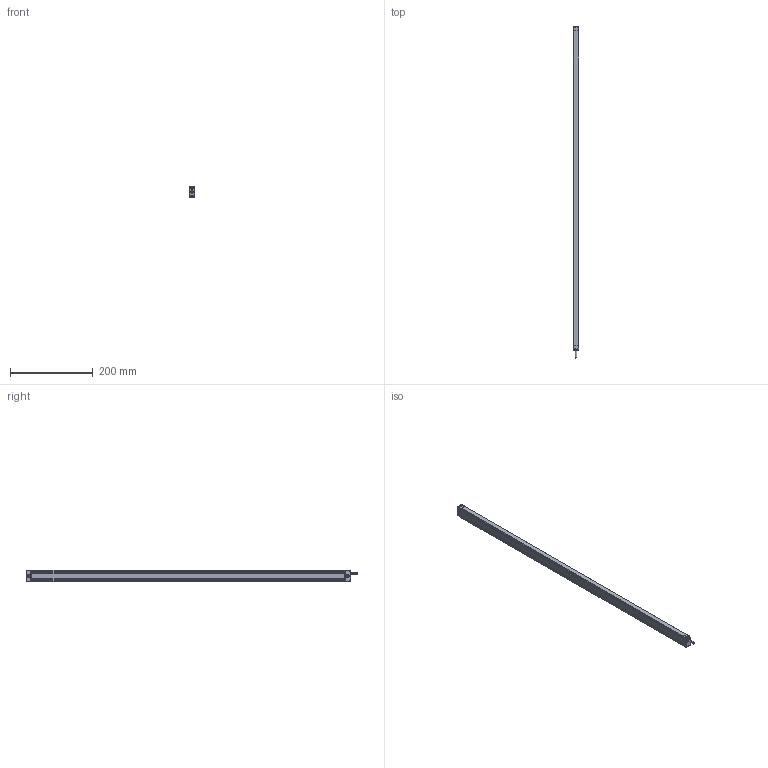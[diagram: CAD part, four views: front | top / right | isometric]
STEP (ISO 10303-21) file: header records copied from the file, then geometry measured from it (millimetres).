
FILE_DESCRIPTION((''),'2;1');
FILE_NAME('EB13-0320_ASM','2021-07-16T09:30:58',('18720616900'),(''),'CREO PARAMETRIC BY PTC INC, 2019010','CREO PARAMETRIC BY PTC INC, 2019010','');
FILE_SCHEMA(('CONFIG_CONTROL_DESIGN'));
Products named in the file (7): EB1300; 000; 0002; 0004; EB13-0320_ASM
Assembly tree (9 placements, depth 2):
  EB13-0320_ASM
    EB1300
    000
    0002
    000
    0004  x4
    000
Bounding box: 13 x 802.4 x 28 mm (x, y, z)
Volume: 294257.3 mm3; surface area: 102250.6 mm2
Topology: 9 solids, 27 shells, 1032 faces, 3520 edges, 2523 vertices
Faces by surface type: cylinder 544, plane 295, bspline 118, torus 40, sphere 31, cone 4
Entity records: 52594 total; most frequent: CARTESIAN_POINT 37957, ORIENTED_EDGE 3370, DIRECTION 2501, EDGE_CURVE 1685, VERTEX_POINT 1150, AXIS2_PLACEMENT_3D 849, VECTOR 803, LINE 803
